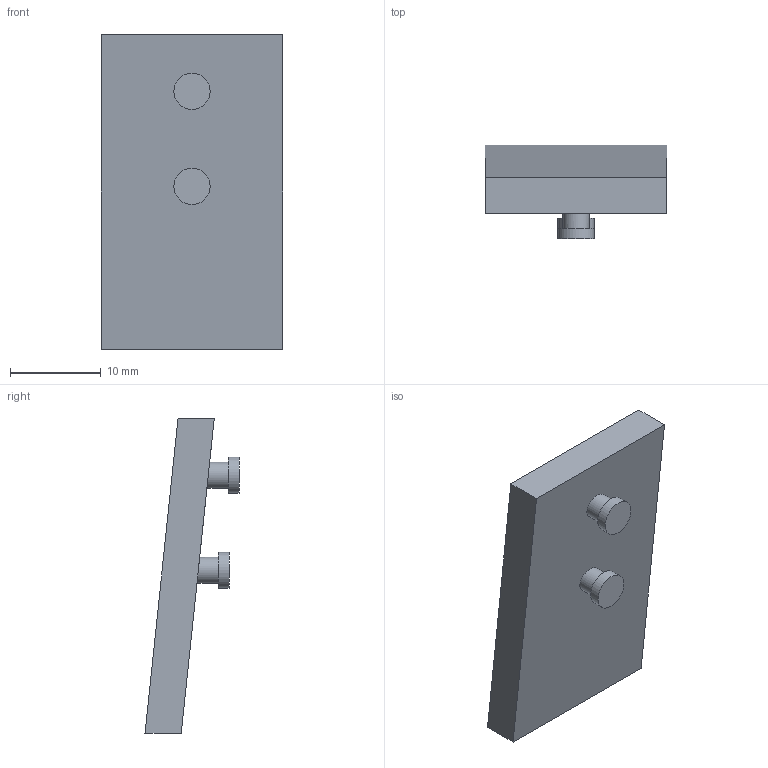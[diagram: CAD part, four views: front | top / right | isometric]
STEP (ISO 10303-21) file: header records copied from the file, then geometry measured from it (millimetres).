
FILE_DESCRIPTION(('Open CASCADE Model'),'2;1');
FILE_NAME('Open CASCADE Shape Model','2026-10-17T22:10:43',('Author'),( 'Open CASCADE'),'Open CASCADE STEP processor 7.9','Open CASCADE 7.9' ,'Unknown');
FILE_SCHEMA(('AUTOMOTIVE_DESIGN { 1 0 10303 214 1 1 1 1 }'));
Length unit declared in the file: millimetre
Products named in the file (1): Open CASCADE STEP translator 7.9 27
Bounding box: 20 x 10.4 x 34.75 mm (x, y, z)
Volume: 2839 mm3; surface area: 1929.5 mm2
Topology: 1 solids, 1 shells, 14 faces, 24 edges, 16 vertices
Faces by surface type: plane 10, cylinder 4
Full cylindrical faces by diameter (mm): 2.9 x2, 4 x2
Entity records: 690 total; most frequent: CARTESIAN_POINT 145, DIRECTION 106, LINE 54, VECTOR 54, ORIENTED_EDGE 48, PCURVE 48, DEFINITIONAL_REPRESENTATION 48, EDGE_CURVE 24
